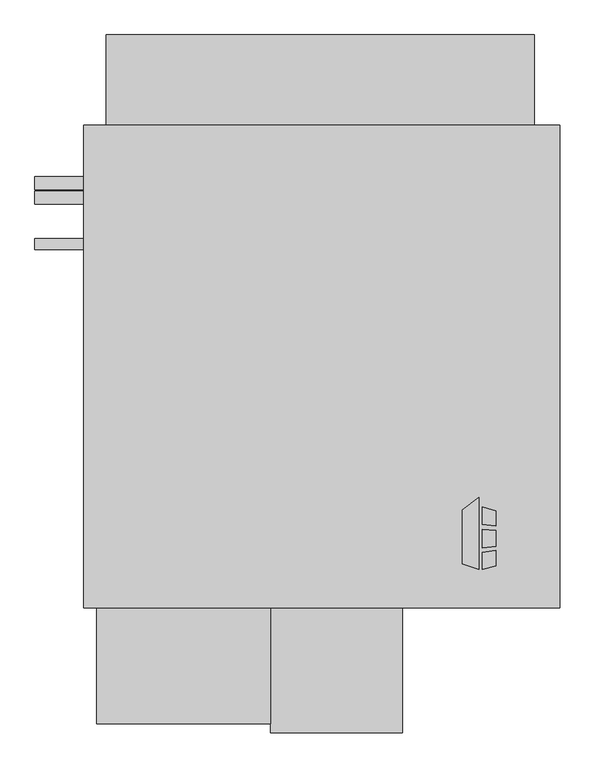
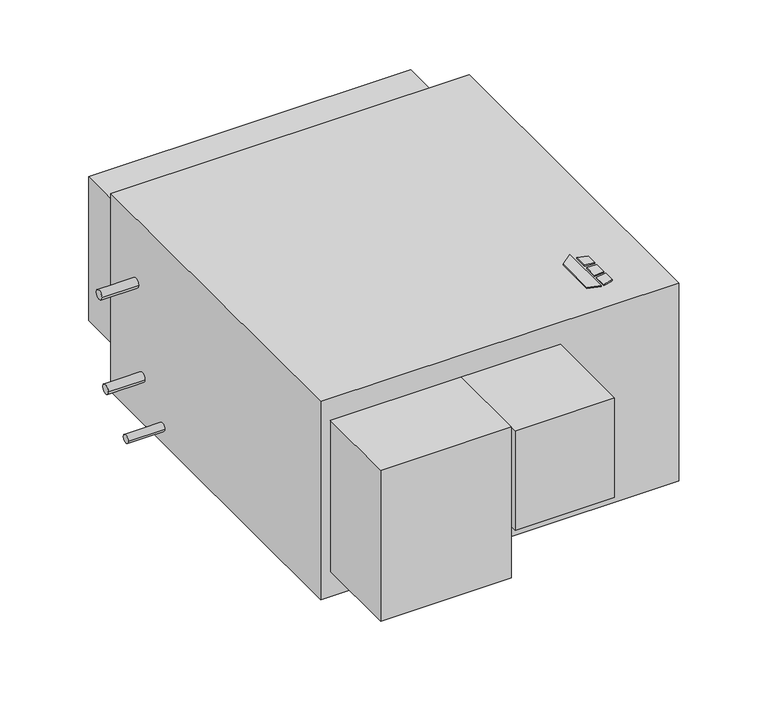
"""IFC4 building model written with IfcOpenShell, lengths in millimetres: proxy geometry, Horizontal_Direct_Drive_Blower_Coil_Unit_-_HDY_-_IEC_-_2-Pipe_Cool-EHeat_LH_2022 : Size 10 - 460v/60Hz/3Ph - 8 Row 9.9kW LH."""

import ifcopenshell
import ifcopenshell.guid

model = None  # the IFC model being written
_history = None  # IfcOwnerHistory: only IFC2X3 demands one
_inside = {}  # id of a spatial element -> (the spatial element, [elements in it])
_under = {}  # id of a project, library or spatial element -> (it, [spatial elements below it])
_declared = {}  # id of a project -> (the project, [libraries it declares])
_typed = {}  # id of a type object -> (the type object, [elements of that type])
_made_of = {}  # id of a material, layer set ... -> (it, [elements and type objects made of it])


def new_model(schema):
    """Start an empty IFC model of exactly this schema.

    Asked for "IFC4X3", IfcOpenShell would pick the latest addendum, in which some entities
    have other attributes; the version numbers below select the first issue.
    IFC2X3 requires an IfcOwnerHistory on every rooted entity: one is made here for all.
    """
    global model, _history
    if schema == "IFC4X3":
        model = ifcopenshell.file(schema_version=(4, 3, 0, 0))
    else:
        model = ifcopenshell.file(schema=schema)
    _inside.clear()
    _under.clear()
    _declared.clear()
    _typed.clear()
    _made_of.clear()
    _history = None
    if model.schema == "IFC2X3":
        org = make("IfcOrganization", Name="unknown")
        user = make(
            "IfcPersonAndOrganization",
            ThePerson=make("IfcPerson", FamilyName="unknown"),
            TheOrganization=org,
        )
        app = make(
            "IfcApplication",
            ApplicationDeveloper=org,
            Version="unknown",
            ApplicationFullName="unknown",
            ApplicationIdentifier="unknown",
        )
        _history = make(
            "IfcOwnerHistory",
            OwningUser=user,
            OwningApplication=app,
            ChangeAction="ADDED",
            CreationDate=0,
        )
    return model


def make(cls, **values):
    """One entity of the class cls with the attributes given. An attribute that is None is left unset."""
    return model.create_entity(
        cls, **{name: value for name, value in values.items() if value is not None}
    )


def rooted(cls, **values):
    """An entity with a GlobalId (a new one), such as an element, a storey or a relation."""
    return make(cls, GlobalId=ifcopenshell.guid.new(), OwnerHistory=_history, **values)


def si_unit(unit_type, name, prefix=None):
    """IfcSIUnit, for example si_unit("LENGTHUNIT", "METRE", prefix="MILLI")."""
    return make("IfcSIUnit", UnitType=unit_type, Prefix=prefix, Name=name)


def assignment(units):
    """IfcUnitAssignment: the units of a project."""
    return None if units is None else make("IfcUnitAssignment", Units=units)


def point(xyz):
    """IfcCartesianPoint."""
    return None if xyz is None else make("IfcCartesianPoint", Coordinates=xyz)


def direction(xyz):
    """IfcDirection."""
    return None if xyz is None else make("IfcDirection", DirectionRatios=xyz)


def frame(location, z_axis=None, x_axis=None):
    """IfcAxis2Placement3D, a coordinate frame: its origin and axes. An axis left out is left unset."""
    return make(
        "IfcAxis2Placement3D",
        Location=point(location),
        Axis=direction(z_axis),
        RefDirection=direction(x_axis),
    )


def frame_2d(location, x_axis=None):
    """IfcAxis2Placement2D, a coordinate frame in the plane: its origin and x axis."""
    return make(
        "IfcAxis2Placement2D", Location=point(location), RefDirection=direction(x_axis)
    )


def origin():
    """The frame at (0, 0, 0) with its axes left unset."""
    return frame((0.0, 0.0, 0.0))


def origin_with_axes():
    """The frame at (0, 0, 0) with the z axis (0, 0, 1) and the x axis (1, 0, 0) written out."""
    return frame((0.0, 0.0, 0.0), z_axis=(0.0, 0.0, 1.0), x_axis=(1.0, 0.0, 0.0))


def place(relative_to, where):
    """IfcLocalPlacement: puts the frame where relative to a parent placement (None: the world)."""
    return make(
        "IfcLocalPlacement", PlacementRelTo=relative_to, RelativePlacement=where
    )


def context(
    kind, dimensions, precision=None, world=None, true_north=None, identifier=None
):
    """IfcGeometricRepresentationContext, for example the 3D "Model" context."""
    return make(
        "IfcGeometricRepresentationContext",
        ContextIdentifier=identifier,
        ContextType=kind,
        CoordinateSpaceDimension=dimensions,
        Precision=precision,
        WorldCoordinateSystem=world,
        TrueNorth=true_north,
    )


def project(units=None, contexts=None):
    """IfcProject with its units and contexts."""
    return rooted(
        "IfcProject",
        Name="project",
        RepresentationContexts=contexts,
        UnitsInContext=assignment(units),
    )


def spatial(cls, under=None, at=None, **own):
    """A site, building, storey or space (cls), placed at a placement, below another one or the project."""
    s = rooted(cls, ObjectPlacement=at, **own)
    if under is not None:
        _under.setdefault(under.id(), (under, []))[1].append(s)
    return s


def polyline(points):
    """IfcPolyline through the points."""
    return make("IfcPolyline", Points=[point(p) for p in points])


def circle_curve(where, radius):
    """IfcCircle in the frame where."""
    return make("IfcCircle", Position=where, Radius=radius)


def trimmed(basis, trim1, trim2, sense, master):
    """IfcTrimmedCurve: the piece of a basis curve between two trims."""
    return make(
        "IfcTrimmedCurve",
        BasisCurve=basis,
        Trim1=trim1,
        Trim2=trim2,
        SenseAgreement=sense,
        MasterRepresentation=master,
    )


def segment(curve, same_sense, transition):
    """IfcCompositeCurveSegment."""
    return make(
        "IfcCompositeCurveSegment",
        Transition=transition,
        SameSense=same_sense,
        ParentCurve=curve,
    )


def composite_curve(segments, self_intersect=None):
    """IfcCompositeCurve: segments joined end to end."""
    return make("IfcCompositeCurve", Segments=segments, SelfIntersect=self_intersect)


def outline(outer, holes=None, kind="AREA"):
    """IfcArbitraryClosedProfileDef: a profile drawn as a closed curve; with holes, ...WithVoids."""
    if holes is None:
        return make("IfcArbitraryClosedProfileDef", ProfileType=kind, OuterCurve=outer)
    return make(
        "IfcArbitraryProfileDefWithVoids",
        ProfileType=kind,
        OuterCurve=outer,
        InnerCurves=holes,
    )


def extrude(swept, where, along, depth):
    """IfcExtrudedAreaSolid: the profile swept, set in the frame where, extruded along a direction by depth."""
    return make(
        "IfcExtrudedAreaSolid",
        SweptArea=swept,
        Position=where,
        ExtrudedDirection=direction(along),
        Depth=depth,
    )


def shape(context_of_items, identifier, shape_type, items):
    """IfcShapeRepresentation: the items that make up one representation, for example the "Body"."""
    return make(
        "IfcShapeRepresentation",
        ContextOfItems=context_of_items,
        RepresentationIdentifier=identifier,
        RepresentationType=shape_type,
        Items=items,
    )


def source(mapping_origin, context_of_items, identifier, shape_type, items):
    """IfcRepresentationMap: a shape defined once, which mapped items show again and again."""
    return make(
        "IfcRepresentationMap",
        MappingOrigin=mapping_origin,
        MappedRepresentation=shape(context_of_items, identifier, shape_type, items),
    )


def transform(
    local_origin,
    x_axis=None,
    y_axis=None,
    z_axis=None,
    scale=None,
    scale2=None,
    scale3=None,
    uniform=True,
):
    """IfcCartesianTransformationOperator3D, or its non-uniform kind. x_axis, y_axis, z_axis: its Axis1, 2, 3."""
    if uniform:
        return make(
            "IfcCartesianTransformationOperator3D",
            Axis1=direction(x_axis),
            Axis2=direction(y_axis),
            LocalOrigin=point(local_origin),
            Scale=scale,
            Axis3=direction(z_axis),
        )
    return make(
        "IfcCartesianTransformationOperator3DnonUniform",
        Axis1=direction(x_axis),
        Axis2=direction(y_axis),
        LocalOrigin=point(local_origin),
        Scale=scale,
        Axis3=direction(z_axis),
        Scale2=scale2,
        Scale3=scale3,
    )


def mapped(mapping_source, mapping_target):
    """IfcMappedItem: shows the shape of a source again, moved by a transform."""
    return make(
        "IfcMappedItem", MappingSource=mapping_source, MappingTarget=mapping_target
    )


def made_of(thing, what):
    """Note that an element or type object is made of a material, layer set ...; save() writes the relation."""
    if what is not None:
        _made_of.setdefault(what.id(), (what, []))[1].append(thing)
    return thing


def element(
    cls,
    number,
    at=None,
    inside=None,
    cuts=None,
    type_object=None,
    material=None,
    context=None,
    identifier="Body",
    shape_type=None,
    held_by="IfcProductDefinitionShape",
    body=None,
    shapes=None,
    **own,
):
    """One element of the class cls, such as IfcWall. Its Tag is "e" and its number.

    at: its placement. inside: the storey or other place that contains it. cuts: it is an
    opening in that element (IfcRelVoidsElement). A single representation is given by context,
    identifier, shape_type and body (its items); several are given by shapes. held_by: the class
    of the entity that holds the representations. save() writes the other relations.
    """
    e = rooted(cls, Tag="e%d" % number, ObjectPlacement=at, **own)
    if body is not None:
        shapes = [shape(context, identifier, shape_type, body)]
    if shapes is not None:
        e.Representation = make(held_by, Representations=shapes)
    if inside is not None:
        _inside.setdefault(inside.id(), (inside, []))[1].append(e)
    if cuts is not None:
        rooted(
            "IfcRelVoidsElement", RelatingBuildingElement=cuts, RelatedOpeningElement=e
        )
    if type_object is not None:
        _typed.setdefault(type_object.id(), (type_object, []))[1].append(e)
    return made_of(e, material)


def aggregate(whole, parts):
    """IfcRelAggregates: a whole, such as a stair, and the parts it consists of."""
    return rooted("IfcRelAggregates", RelatingObject=whole, RelatedObjects=parts)


def save(model, path):
    """Write the relations noted so far, then the file.

    IfcRelAggregates (storeys below a building ...), IfcRelContainedInSpatialStructure (elements
    in a storey), IfcRelDefinesByType, IfcRelAssociatesMaterial and IfcRelDeclares: one each for
    every whole, place, type object, material and project.
    """
    for whole, parts in _under.values():
        aggregate(whole, parts)
    for where, things in _inside.values():
        rooted(
            "IfcRelContainedInSpatialStructure",
            RelatedElements=things,
            RelatingStructure=where,
        )
    for kind, things in _typed.values():
        rooted("IfcRelDefinesByType", RelatedObjects=things, RelatingType=kind)
    for what, things in _made_of.values():
        rooted("IfcRelAssociatesMaterial", RelatedObjects=things, RelatingMaterial=what)
    for by, libraries in _declared.values():
        rooted("IfcRelDeclares", RelatingContext=by, RelatedDefinitions=libraries)
    model.write(path)


def mechanical_equipment_e5999960(model_context):
    return source(origin(), model_context, "Body", "SweptSolid", [
        extrude(outline(polyline([(-319.3980239, -267.6578476), (-286.8397272, -242.2205184), (-286.8397272, -384.175), (-319.3980239, -373.9554201), (-319.3980239, -267.6578476)])), origin_with_axes(), (0.0, 0.0, 1.0), 3.175),
        extrude(outline(polyline([(-280.0813942, -295.529852), (-280.0813942, -261.0499379), (-254.0, -269.2365115), (-254.0, -298.7322446), (-280.0813942, -295.529852)])), origin_with_axes(), (0.0, 0.0, 1.0), 3.175),
        extrude(outline(polyline([(-254.0, -377.1865115), (-280.0813942, -384.175), (-280.0813942, -350.9536996), (-254.0, -347.4118564), (-254.0, -377.1865115)])), origin_with_axes(), (0.0, 0.0, 1.0), 3.175),
        extrude(outline(polyline([(-254.0, -307.8138277), (-254.0, -339.063983), (-280.0813942, -341.805248), (-280.0813942, -305.9475378), (-254.0, -307.8138277)])), origin_with_axes(), (0.0, 0.0, 1.0), 3.175),
        extrude(outline(composite_curve([segment(trimmed(circle_curve(frame_2d((377.825, -177.8)), 12.7), [point((365.125, -177.8))], [point((390.525, -177.8))], False, "CARTESIAN"), True, "CONTINUOUS"), segment(trimmed(circle_curve(frame_2d((377.825, -177.8)), 12.7), [point((390.525, -177.8))], [point((365.125, -177.8))], False, "CARTESIAN"), True, "CONTINUOUS")], self_intersect=False)), frame((-1163.1025559, 0.0, 0.0), z_axis=(1.0, 0.0, 0.0), x_axis=(0.0, 1.0, 0.0)), (0.0, 0.0, 1.0), 96.3025559),
        extrude(outline(composite_curve([segment(trimmed(circle_curve(frame_2d((348.9715397, -422.2558174)), 12.7), [point((336.2715397, -422.2558174))], [point((361.6715397, -422.2558174))], False, "CARTESIAN"), True, "CONTINUOUS"), segment(trimmed(circle_curve(frame_2d((348.9715397, -422.2558174)), 12.7), [point((361.6715397, -422.2558174))], [point((336.2715397, -422.2558174))], False, "CARTESIAN"), True, "CONTINUOUS")], self_intersect=False)), frame((-1163.1025559, 0.0, 0.0), z_axis=(1.0, 0.0, 0.0), x_axis=(0.0, 1.0, 0.0)), (0.0, 0.0, 1.0), 96.3025559),
        extrude(outline(composite_curve([segment(trimmed(circle_curve(frame_2d((257.175, -504.8058174)), 11.1125), [point((246.0625, -504.8058174))], [point((268.2875, -504.8058174))], False, "CARTESIAN"), True, "CONTINUOUS"), segment(trimmed(circle_curve(frame_2d((257.175, -504.8058174)), 11.1125), [point((268.2875, -504.8058174))], [point((246.0625, -504.8058174))], False, "CARTESIAN"), True, "CONTINUOUS")], self_intersect=False)), frame((-1163.1025559, 0.0, 0.0), z_axis=(1.0, 0.0, 0.0), x_axis=(0.0, 1.0, 0.0)), (0.0, 0.0, 1.0), 96.3025559),
        extrude(outline(polyline([(-127.0, 492.125), (-127.0, -460.375), (-1066.8, -460.375), (-1066.8, 492.125), (-127.0, 492.125)])), frame((0.0, 0.0, -549.2558174), z_axis=(0.0, 0.0, 1.0), x_axis=(1.0, 0.0, 0.0)), (0.0, 0.0, 1.0), 549.2558174),
        extrude(outline(polyline([(-698.5, -688.975), (-1041.4, -688.975), (-1041.4, -460.375), (-698.5, -460.375), (-698.5, -688.975)])), frame((0.0, 0.0, -479.4058174), z_axis=(0.0, 0.0, 1.0), x_axis=(1.0, 0.0, 0.0)), (0.0, 0.0, 1.0), 419.1),
        extrude(outline(polyline([(-1022.35, 669.925), (-177.8, 669.925), (-177.8, 492.125), (-1022.35, 492.125), (-1022.35, 669.925)])), frame((0.0, 0.0, -476.2308174), z_axis=(0.0, 0.0, 1.0), x_axis=(1.0, 0.0, 0.0)), (0.0, 0.0, 1.0), 400.05),
        extrude(outline(polyline([(-438.15, -706.4375), (-698.5, -706.4375), (-698.5, -460.375), (-438.15, -460.375), (-438.15, -706.4375)])), frame((0.0, 0.0, -336.5308174), z_axis=(0.0, 0.0, 1.0), x_axis=(1.0, 0.0, 0.0)), (0.0, 0.0, 1.0), 276.225),
    ])


if __name__ == "__main__":
    model = new_model("IFC4")
    model_context = context("Model", 3, world=origin())
    ifc_project = project(units=[si_unit("LENGTHUNIT", "METRE", prefix="MILLI")], contexts=[model_context])
    site = spatial("IfcSite", under=ifc_project)
    building = spatial("IfcBuilding", under=site)
    placement = place(None, origin())
    mechanical_equipment_shape = mechanical_equipment_e5999960(model_context)
    element("IfcBuildingElementProxy", 1, Name="Horizontal_Direct_Drive_Blower_Coil_Unit_-_HDY_-_IEC_-_2-Pipe_Cool-EHeat_LH_2022 : Size 10 - 460v/60Hz/3Ph - 8 Row 9.9kW LH", ObjectType="Horizontal_Direct_Drive_Blower_Coil_Unit_-_HDY_-_IEC_-_2-Pipe_Cool-EHeat_LH_2022 : Size 10 - 460v/60Hz/3Ph - 8 Row 9.9kW LH", at=placement, inside=building, context=model_context, shape_type="MappedRepresentation", body=[
        mapped(mechanical_equipment_shape, transform((0.0, 0.0, 0.0), x_axis=(1.0, 0.0, 0.0), y_axis=(0.0, 1.0, 0.0), z_axis=(0.0, 0.0, 1.0))),
    ])
    save(model, "model.ifc")
